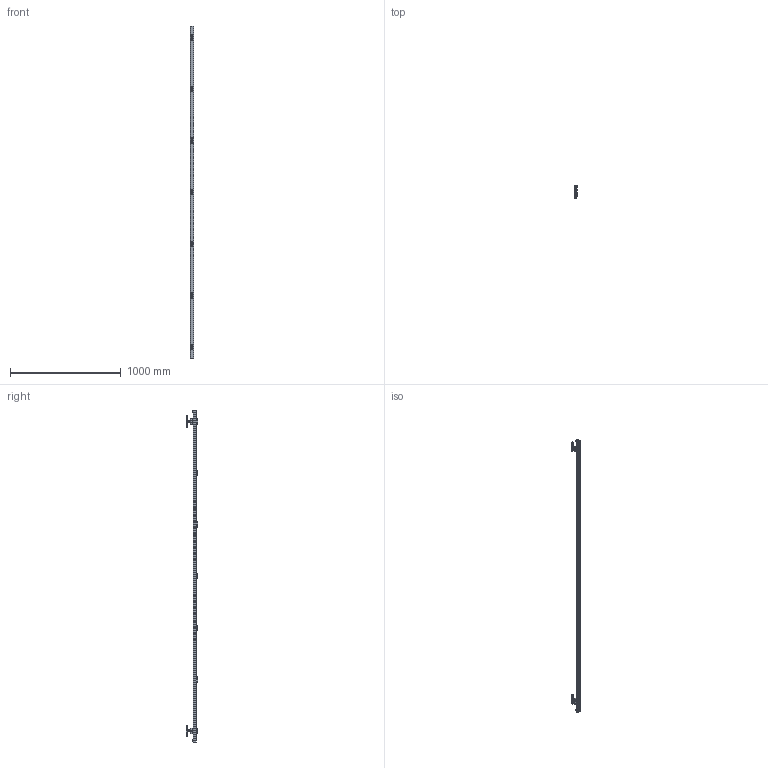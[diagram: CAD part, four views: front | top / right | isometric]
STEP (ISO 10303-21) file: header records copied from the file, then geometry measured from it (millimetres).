
FILE_DESCRIPTION(/* description */ ('Komplettsortiment Nr.0 - 3m'),/* implementation_level */ '2;1');
FILE_NAME(/* name */ 'D:\Public\STP\010339510-TP.stp',/* time_stamp */ '2020-05-13T16:20:02+02:00',/* author */ ('O. Loukota'),/* organization */ (''),/* preprocessor_version */ 'ST-DEVELOPER v17.2',/* originating_system */ 'Autodesk Inventor 2019',/* authorisation */ '');
FILE_SCHEMA (('AUTOMOTIVE_DESIGN { 1 0 10303 214 3 1 1 }'));
Length unit declared in the file: millimetre
Products named in the file (24): 010339510; 011337057; 010330823; 000302104; 000302101; DIN EN ISO 4017 - M8  x 16; DIN EN ISO 7093 - 8,4; DIN EN ISO 4035 - M8; DIN EN ISO 10642 - M4  x  10; DIN EN ISO 7090 - 5,3; DIN EN ISO 7090 - 4,3; DIN EN ISO 4032 - M4; 000301993; 010336403; 337000122; 337000223; 336290000; 000303230; 000302243; 000304010; DIN 6798 - A  10,5; DIN EN ISO 4017 - M10  x 40; DIN EN ISO 4035 - M10; 010330969
Assembly tree (64 placements, depth 3):
  010339510
    011337057
    010330823  x2
      000302104
      000302101
      DIN EN ISO 4017 - M8  x 16
      DIN EN ISO 7093 - 8,4
      DIN EN ISO 4035 - M8
    DIN EN ISO 10642 - M4  x  10  x7
    DIN EN ISO 7090 - 5,3  x7
    DIN EN ISO 7090 - 4,3  x7
    DIN EN ISO 4032 - M4  x7
    000301993  x7
    010336403  x2
      337000122
      337000223
      336290000
      000303230
      000302243
      000304010
      DIN 6798 - A  10,5
      DIN EN ISO 4017 - M10  x 40
      DIN EN ISO 4035 - M10
    010330969  x2
Bounding box: 31.66 x 105.59 x 3000 mm (x, y, z)
Volume: 607264.5 mm3; surface area: 656322.8 mm2
Topology: 82 solids, 82 shells, 1643 faces, 4170 edges, 2733 vertices
Faces by surface type: plane 897, cylinder 510, cone 194, torus 28, bspline 14
Full cylindrical faces by diameter (mm): 3.242 x7, 4 x35, 4.3 x7, 5.3 x7, 6 x22, 6.1 x12, 6.647 x2, 7.3 x2, 7.323 x2, 7.53 x7, 7.8 x2, 8 x6, 8.376 x6, 8.4 x2, 9 x9, 9.188 x2, 10 x11, 10.5 x2, 11.4 x2, 15.4 x2, 24 x2
Entity records: 17403 total; most frequent: CARTESIAN_POINT 3413, DIRECTION 2924, ORIENTED_EDGE 2634, EDGE_CURVE 1317, AXIS2_PLACEMENT_3D 1094, VERTEX_POINT 860, LINE 736, VECTOR 736
